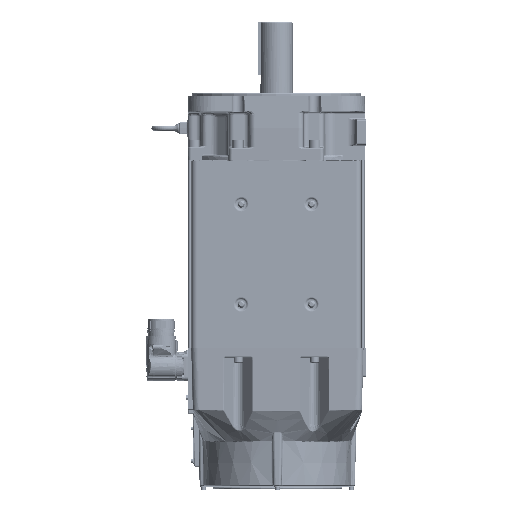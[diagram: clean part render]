
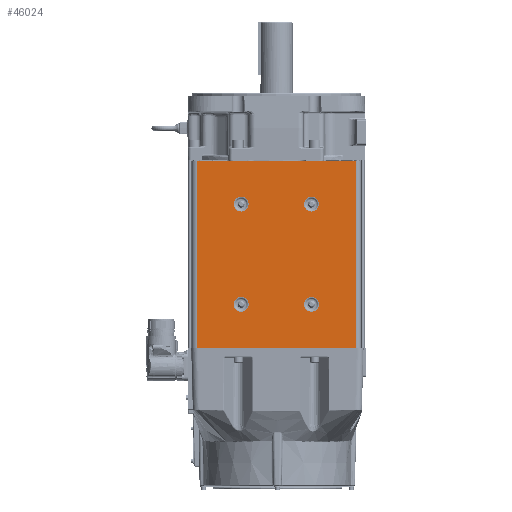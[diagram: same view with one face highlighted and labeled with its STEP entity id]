
A CAD part, left-side view. The second image highlights one B-rep face of the part: STEP entity #46024.
In plain terms, the highlighted planar face has unit normal (-1, 0, 0).
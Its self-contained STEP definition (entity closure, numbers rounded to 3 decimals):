
#44788=DIRECTION('',(0.,0.,-1.));
#44789=VECTOR('',#44788,277.3);
#44790=CARTESIAN_POINT('',(0.,-117.25,138.65));
#44791=LINE('',#44790,#44789);
#44882=DIRECTION('',(0.,1.,0.));
#44883=VECTOR('',#44882,234.5);
#44884=CARTESIAN_POINT('',(0.,-117.25,138.65));
#44885=LINE('',#44884,#44883);
#44894=DIRECTION('',(0.,0.,-1.));
#44895=VECTOR('',#44894,277.3);
#44896=CARTESIAN_POINT('',(0.,117.25,138.65));
#44897=LINE('',#44896,#44895);
#44898=CARTESIAN_POINT('',(0.,-52.,74.15));
#44899=DIRECTION('',(-1.,0.,0.));
#44900=DIRECTION('',(0.,0.,1.));
#44901=AXIS2_PLACEMENT_3D('',#44898,#44899,#44900);
#44903=CARTESIAN_POINT('',(0.,-52.,74.15));
#44904=DIRECTION('',(-1.,0.,0.));
#44905=DIRECTION('',(0.,0.,-1.));
#44906=AXIS2_PLACEMENT_3D('',#44903,#44904,#44905);
#44908=CARTESIAN_POINT('',(0.,-52.,-74.15));
#44909=DIRECTION('',(-1.,0.,0.));
#44910=DIRECTION('',(0.,0.,1.));
#44911=AXIS2_PLACEMENT_3D('',#44908,#44909,#44910);
#44913=CARTESIAN_POINT('',(0.,-52.,-74.15));
#44914=DIRECTION('',(-1.,0.,0.));
#44915=DIRECTION('',(0.,0.,-1.));
#44916=AXIS2_PLACEMENT_3D('',#44913,#44914,#44915);
#44918=CARTESIAN_POINT('',(0.,52.,74.15));
#44919=DIRECTION('',(-1.,0.,0.));
#44920=DIRECTION('',(0.,0.,1.));
#44921=AXIS2_PLACEMENT_3D('',#44918,#44919,#44920);
#44923=CARTESIAN_POINT('',(0.,52.,74.15));
#44924=DIRECTION('',(-1.,0.,0.));
#44925=DIRECTION('',(0.,0.,-1.));
#44926=AXIS2_PLACEMENT_3D('',#44923,#44924,#44925);
#44928=CARTESIAN_POINT('',(0.,52.,-74.15));
#44929=DIRECTION('',(-1.,0.,0.));
#44930=DIRECTION('',(0.,0.,1.));
#44931=AXIS2_PLACEMENT_3D('',#44928,#44929,#44930);
#44933=CARTESIAN_POINT('',(0.,52.,-74.15));
#44934=DIRECTION('',(-1.,0.,0.));
#44935=DIRECTION('',(0.,0.,-1.));
#44936=AXIS2_PLACEMENT_3D('',#44933,#44934,#44935);
#44938=DIRECTION('',(0.,1.,0.));
#44939=VECTOR('',#44938,234.5);
#44940=CARTESIAN_POINT('',(0.,-117.25,-138.65));
#44941=LINE('',#44940,#44939);
#45602=CARTESIAN_POINT('',(0.,-117.25,138.65));
#45603=CARTESIAN_POINT('',(0.,117.25,138.65));
#45604=VERTEX_POINT('',#45602);
#45605=VERTEX_POINT('',#45603);
#45614=CARTESIAN_POINT('',(0.,-117.25,-138.65));
#45615=CARTESIAN_POINT('',(0.,117.25,-138.65));
#45616=VERTEX_POINT('',#45614);
#45617=VERTEX_POINT('',#45615);
#45658=CARTESIAN_POINT('',(0.,-52.,85.135));
#45659=CARTESIAN_POINT('',(0.,-52.,63.165));
#45660=VERTEX_POINT('',#45658);
#45661=VERTEX_POINT('',#45659);
#45698=CARTESIAN_POINT('',(0.,-52.,-63.165));
#45699=CARTESIAN_POINT('',(0.,-52.,-85.135));
#45700=VERTEX_POINT('',#45698);
#45701=VERTEX_POINT('',#45699);
#45738=CARTESIAN_POINT('',(0.,52.,85.135));
#45739=CARTESIAN_POINT('',(0.,52.,63.165));
#45740=VERTEX_POINT('',#45738);
#45741=VERTEX_POINT('',#45739);
#45778=CARTESIAN_POINT('',(0.,52.,-63.165));
#45779=CARTESIAN_POINT('',(0.,52.,-85.135));
#45780=VERTEX_POINT('',#45778);
#45781=VERTEX_POINT('',#45779);
#45987=CARTESIAN_POINT('',(0.,117.25,138.65));
#45988=DIRECTION('',(-1.,0.,0.));
#45989=DIRECTION('',(0.,-1.,0.));
#45990=AXIS2_PLACEMENT_3D('',#45987,#45988,#45989);
#45991=PLANE('',#45990);
#45992=ORIENTED_EDGE('',*,*,#45978,.F.);
#45993=ORIENTED_EDGE('',*,*,#45861,.T.);
#45995=ORIENTED_EDGE('',*,*,#45994,.T.);
#45997=ORIENTED_EDGE('',*,*,#45996,.F.);
#45998=EDGE_LOOP('',(#45992,#45993,#45995,#45997));
#45999=FACE_OUTER_BOUND('',#45998,.F.);
#46001=ORIENTED_EDGE('',*,*,#46000,.T.);
#46003=ORIENTED_EDGE('',*,*,#46002,.T.);
#46004=EDGE_LOOP('',(#46001,#46003));
#46005=FACE_BOUND('',#46004,.F.);
#46007=ORIENTED_EDGE('',*,*,#46006,.T.);
#46009=ORIENTED_EDGE('',*,*,#46008,.T.);
#46010=EDGE_LOOP('',(#46007,#46009));
#46011=FACE_BOUND('',#46010,.F.);
#46013=ORIENTED_EDGE('',*,*,#46012,.T.);
#46015=ORIENTED_EDGE('',*,*,#46014,.T.);
#46016=EDGE_LOOP('',(#46013,#46015));
#46017=FACE_BOUND('',#46016,.F.);
#46019=ORIENTED_EDGE('',*,*,#46018,.T.);
#46021=ORIENTED_EDGE('',*,*,#46020,.T.);
#46022=EDGE_LOOP('',(#46019,#46021));
#46023=FACE_BOUND('',#46022,.F.);
#46024=ADVANCED_FACE('',(#45999,#46005,#46011,#46017,#46023),#45991,.T.);
#44902=CIRCLE('',#44901,10.985);
#44907=CIRCLE('',#44906,10.985);
#44912=CIRCLE('',#44911,10.985);
#44917=CIRCLE('',#44916,10.985);
#44922=CIRCLE('',#44921,10.985);
#44927=CIRCLE('',#44926,10.985);
#44932=CIRCLE('',#44931,10.985);
#44937=CIRCLE('',#44936,10.985);
#45861=EDGE_CURVE('',#45604,#45616,#44791,.T.);
#45978=EDGE_CURVE('',#45604,#45605,#44885,.T.);
#45994=EDGE_CURVE('',#45616,#45617,#44941,.T.);
#45996=EDGE_CURVE('',#45605,#45617,#44897,.T.);
#46000=EDGE_CURVE('',#45660,#45661,#44902,.T.);
#46002=EDGE_CURVE('',#45661,#45660,#44907,.T.);
#46006=EDGE_CURVE('',#45700,#45701,#44912,.T.);
#46008=EDGE_CURVE('',#45701,#45700,#44917,.T.);
#46012=EDGE_CURVE('',#45740,#45741,#44922,.T.);
#46014=EDGE_CURVE('',#45741,#45740,#44927,.T.);
#46018=EDGE_CURVE('',#45780,#45781,#44932,.T.);
#46020=EDGE_CURVE('',#45781,#45780,#44937,.T.);
